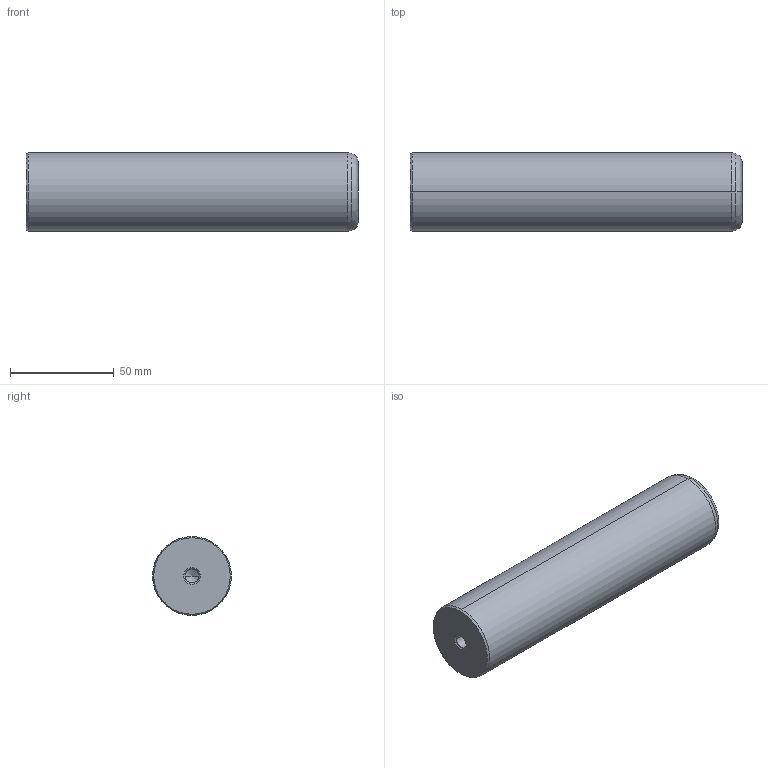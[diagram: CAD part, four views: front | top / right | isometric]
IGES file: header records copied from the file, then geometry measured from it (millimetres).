
Start section: START RECORD GO HERE.
Global section: file name: 720-38x160.igs; native system: DASSAULT SYSTEMES CATIA V5 R20 - www.3ds.com; preprocessor: CATIA Version 5 Release 20 ; author: Utente; organization: NB04-ASUS; date: 20210101.130815; units: millimetre
Bounding box: 160 x 38 x 38 mm (x, y, z)
Surface area: 22055.6 mm2 (no closed solid volume)
Topology: 0 solids, 0 shells, 22 faces, 108 edges, 104 vertices
Faces by surface type: revolution 20, plane 2
